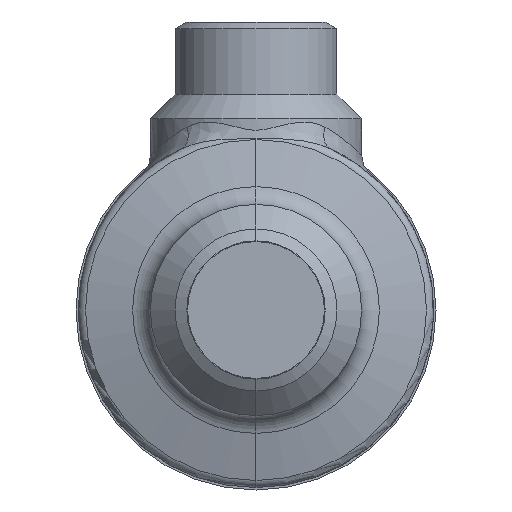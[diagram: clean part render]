
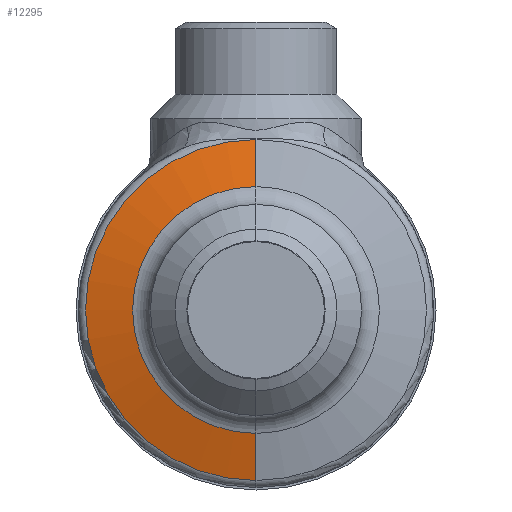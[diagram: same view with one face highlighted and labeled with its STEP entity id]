
A CAD part, front view. The second image highlights one B-rep face of the part: STEP entity #12295.
In plain terms, the highlighted conical face has half-angle 75 degrees and reference radius 37 mm.
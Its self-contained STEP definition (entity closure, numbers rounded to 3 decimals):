
#887 = CIRCLE ( 'NONE', #888, 35.518 ) ;
#888 = AXIS2_PLACEMENT_3D ( 'NONE', #889, #890, #891 ) ;
#889 = CARTESIAN_POINT ( 'NONE',  ( 0., -64.378, 0. ) ) ;
#890 = DIRECTION ( 'NONE',  ( 0., -1., 0. ) ) ;
#891 = DIRECTION ( 'NONE',  ( 0., 0., -1. ) ) ;
#4945 = VERTEX_POINT ( 'NONE', #5706 ) ;
#5157 = EDGE_CURVE ( 'NONE', #4945, #12137, #5792, .T. ) ;
#5706 = CARTESIAN_POINT ( 'NONE',  ( 0., -67.007, -25.706 ) ) ;
#5792 = CIRCLE ( 'NONE', #5793, 25.706 ) ;
#5793 = AXIS2_PLACEMENT_3D ( 'NONE', #5794, #5795, #5797 ) ;
#5794 = CARTESIAN_POINT ( 'NONE',  ( 0., -67.007, 0. ) ) ;
#5795 = DIRECTION ( 'NONE',  ( 0., 1., 0. ) ) ;
#5797 = DIRECTION ( 'NONE',  ( 0., 0., -1. ) ) ;
#6359 = EDGE_LOOP ( 'NONE', ( #11567, #11078, #8526, #11378 ) ) ;
#6433 = VERTEX_POINT ( 'NONE', #6700 ) ;
#6700 = CARTESIAN_POINT ( 'NONE',  ( 0., -64.378, 35.518 ) ) ;
#6984 = LINE ( 'NONE', #6985, #6986 ) ;
#6985 = CARTESIAN_POINT ( 'NONE',  ( 0., -63.981, 37. ) ) ;
#6986 = VECTOR ( 'NONE', #6987, 1000. ) ;
#6987 = DIRECTION ( 'NONE',  ( 0., 0.259, 0.966 ) ) ;
#7514 = VERTEX_POINT ( 'NONE', #7532 ) ;
#7532 = CARTESIAN_POINT ( 'NONE',  ( 0., -64.378, -35.518 ) ) ;
#7624 = CARTESIAN_POINT ( 'NONE',  ( 0., -67.007, 25.706 ) ) ;
#7667 = LINE ( 'NONE', #7668, #7669 ) ;
#7668 = CARTESIAN_POINT ( 'NONE',  ( 0., -63.981, -37. ) ) ;
#7669 = VECTOR ( 'NONE', #7670, 1000. ) ;
#7670 = DIRECTION ( 'NONE',  ( 0., 0.259, -0.966 ) ) ;
#7721 = EDGE_CURVE ( 'NONE', #4945, #7514, #7667, .T. ) ;
#7813 = FACE_OUTER_BOUND ( 'NONE', #6359, .T. ) ;
#7814 = CONICAL_SURFACE ( 'NONE', #7815, 37., 1.309 ) ;
#7815 = AXIS2_PLACEMENT_3D ( 'NONE', #7816, #7817, #7818 ) ;
#7816 = CARTESIAN_POINT ( 'NONE',  ( 0., -63.981, 0. ) ) ;
#7817 = DIRECTION ( 'NONE',  ( 0., 1., 0. ) ) ;
#7818 = DIRECTION ( 'NONE',  ( 0., 0., 1. ) ) ;
#8526 = ORIENTED_EDGE ( 'NONE', *, *, #11343, .T. ) ;
#11078 = ORIENTED_EDGE ( 'NONE', *, *, #5157, .T. ) ;
#11343 = EDGE_CURVE ( 'NONE', #12137, #6433, #6984, .T. ) ;
#11378 = ORIENTED_EDGE ( 'NONE', *, *, #12543, .T. ) ;
#11567 = ORIENTED_EDGE ( 'NONE', *, *, #7721, .F. ) ;
#12137 = VERTEX_POINT ( 'NONE', #7624 ) ;
#12295 = ADVANCED_FACE ( 'NONE', ( #7813 ), #7814, .T. ) ;
#12543 = EDGE_CURVE ( 'NONE', #6433, #7514, #887, .T. ) ;
